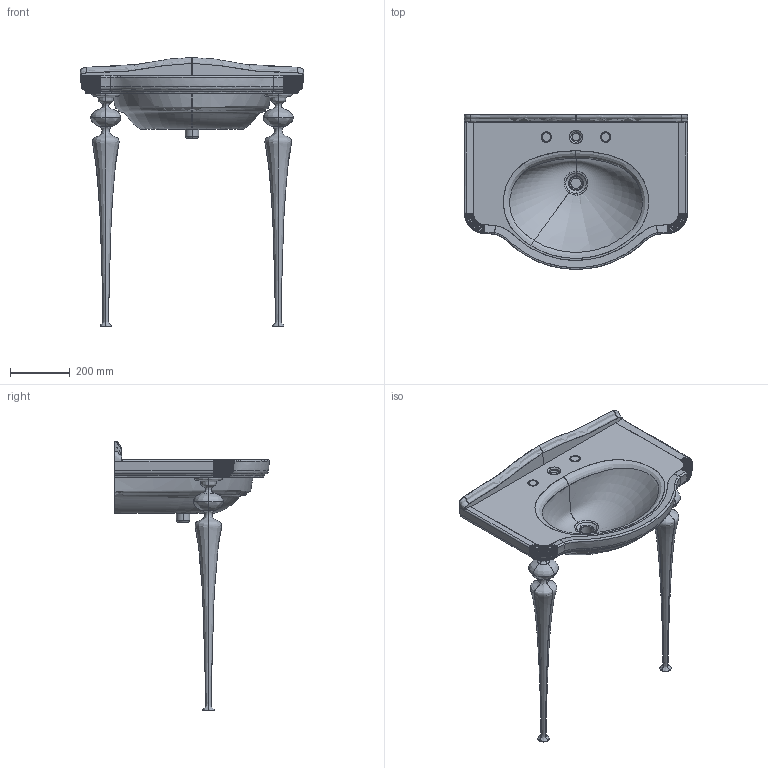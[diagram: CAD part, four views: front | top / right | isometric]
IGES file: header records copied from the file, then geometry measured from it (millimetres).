
Start section: START RECORD GO HERE.
Global section: file name: 8447-8458-8459.igs; native system: IBM CATIA IGES - CATIA Version 5 Release 17 ; preprocessor: CATIA Version 5 Release 17 ; author: Luca; organization: PC-Luca; date: 20121116.193533; units: millimetre
Bounding box: 750.34 x 520.05 x 903.02 mm (x, y, z)
Surface area: 1364980 mm2 (no closed solid volume)
Topology: 0 solids, 0 shells, 1043 faces, 4630 edges, 4628 vertices
Faces by surface type: bspline 1043
